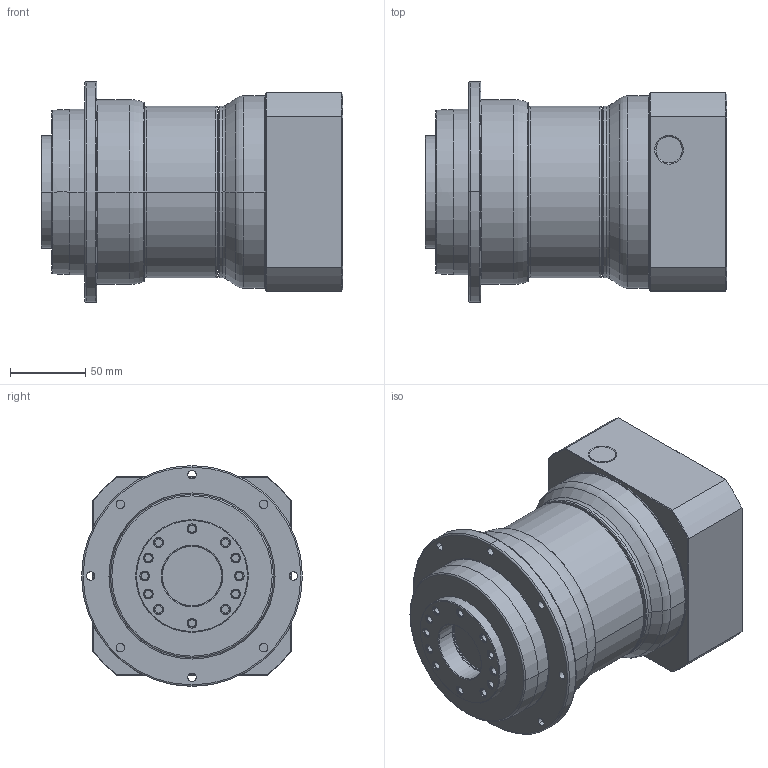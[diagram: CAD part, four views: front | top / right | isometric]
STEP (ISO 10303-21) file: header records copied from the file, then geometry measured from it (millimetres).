
FILE_DESCRIPTION((''),'2;1');
FILE_NAME('PD110_2ST_35-P0411800101_ASM','2016-06-04T',('d01943'),(''),'PRO/ENGINEER BY PARAMETRIC TECHNOLOGY CORPORATION, 2008410','PRO/ENGINEER BY PARAMETRIC TECHNOLOGY CORPORATION, 2008410','');
FILE_SCHEMA(('CONFIG_CONTROL_DESIGN'));
Length unit declared in the file: millimetre
Products named in the file (8): P1355400001; P0367400001; P0275400001; P1324400401; P0411800101; P0503800010; P0941404001; PD110_2ST_35-P0411800101_ASM
Assembly tree (7 placements, depth 2):
  PD110_2ST_35-P0411800101_ASM
    P1355400001
    P0367400001
    P0275400001
    P1324400401
    P0411800101
    P0503800010
    P0941404001
Bounding box: 200.93 x 147 x 147 mm (x, y, z)
Volume: 2151255.4 mm3; surface area: 296009.5 mm2
Topology: 7 solids, 8 shells, 431 faces, 999 edges, 604 vertices
Faces by surface type: cylinder 172, cone 94, torus 76, plane 75, bspline 14
Entity records: 17005 total; most frequent: CARTESIAN_POINT 6792, DIRECTION 2297, ORIENTED_EDGE 1966, AXIS2_PLACEMENT_3D 991, EDGE_CURVE 983, VERTEX_POINT 604, CIRCLE 559, EDGE_LOOP 525
